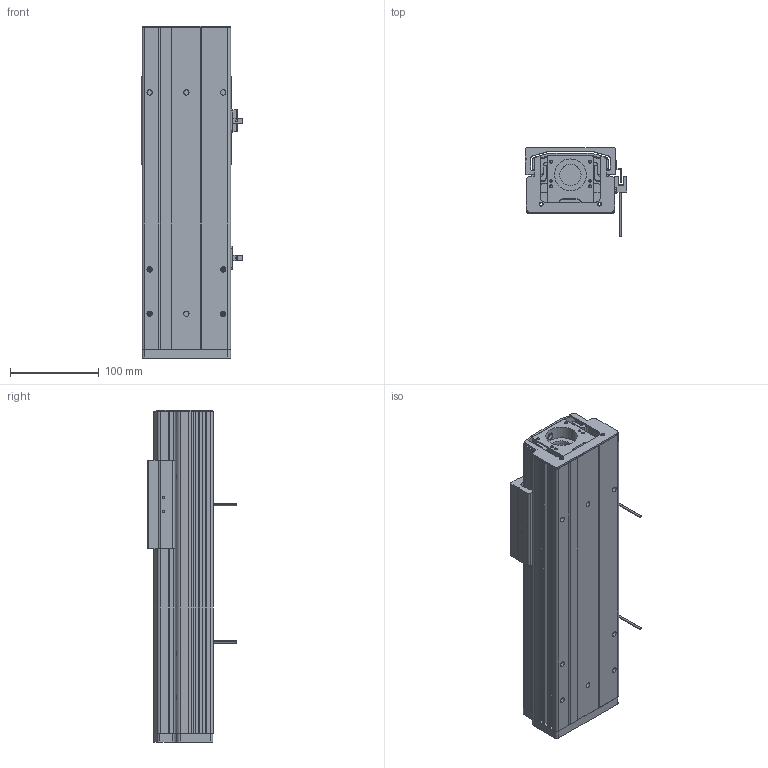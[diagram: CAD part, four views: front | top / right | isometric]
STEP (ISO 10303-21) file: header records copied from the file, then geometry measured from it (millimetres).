
FILE_DESCRIPTION (( 'STEP AP203' ), '1' );
FILE_NAME ('CTHM10-S150-O-BC.STEP', '2019-12-18T01:12:28', ( '微软用户' ), ( '微软中国' ), 'SwSTEP 2.0', 'SolidWorks 2017', '' );
FILE_SCHEMA (( 'CONFIG_CONTROL_DESIGN' ));
Length unit declared in the file: millimetre
Products named in the file (11): CTHM10綴傷裔; 覜茼え; 遣喳蝶15x12x8; CTHM10菁釱(200); EE-SX672-BR; CTHM10痄雄釱(党蜊); CTHM10-S150-O-BC; CTHM10盓傅耜; CTHM10固定侧自制轴承座; CTHM10裔啣(100); CTHM10傷裔(祥結裔啣)
Assembly tree (14 placements, depth 2):
  CTHM10-S150-O-BC
    CTHM10菁釱(200)
    CTHM10痄雄釱(党蜊)
    CTHM10盓傅耜
    CTHM10固定侧自制轴承座
    CTHM10裔啣(100)
    CTHM10傷裔(祥結裔啣)
    CTHM10綴傷裔
    覜茼え
    遣喳蝶15x12x8  x4
    EE-SX672-BR  x2
Bounding box: 114.7 x 100.2 x 375 mm (x, y, z)
Volume: 1209833.5 mm3; surface area: 414986.3 mm2
Topology: 14 solids, 14 shells, 930 faces, 2632 edges, 1716 vertices
Faces by surface type: cylinder 493, plane 393, cone 44
Entity records: 31407 total; most frequent: CARTESIAN_POINT 7575, DIRECTION 4766, ORIENTED_EDGE 4736, EDGE_CURVE 2368, AXIS2_PLACEMENT_3D 1737, VERTEX_POINT 1564, VECTOR 1292, LINE 1292
